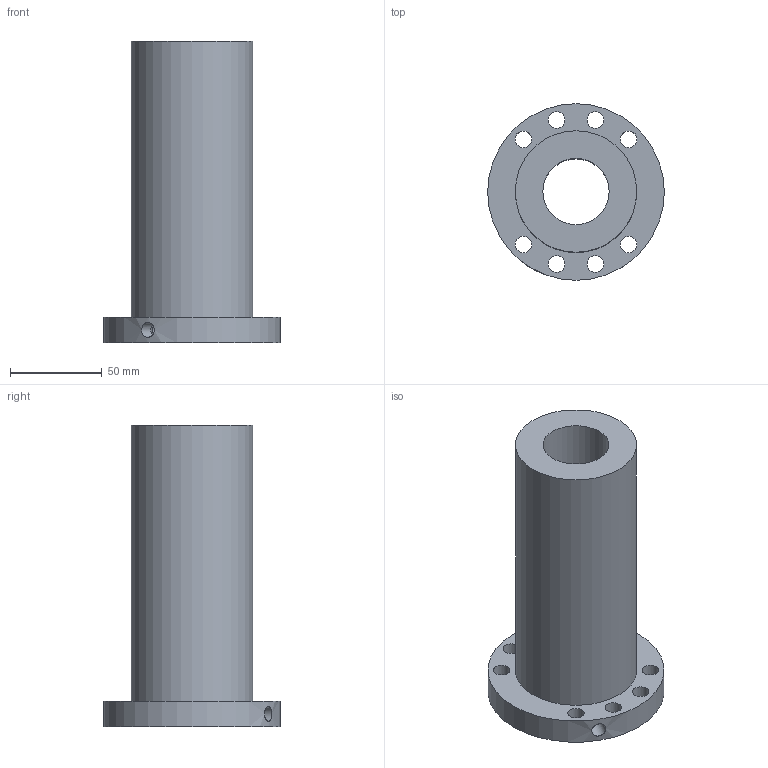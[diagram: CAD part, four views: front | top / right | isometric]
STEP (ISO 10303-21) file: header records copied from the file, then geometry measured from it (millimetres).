
FILE_DESCRIPTION(/* description */ (''),/* implementation_level */ '2;1');
FILE_NAME(/* name */ '36-10K5_635',/* time_stamp */ '2007-10-15T12:53:59+08:00',/* author */ (''),/* organization */ (''),/* preprocessor_version */ 'ST-DEVELOPER v11',/* originating_system */ 'UGS - NX 5.0',/* authorisation */ '');
FILE_SCHEMA (('CONFIG_CONTROL_DESIGN'));
Length unit declared in the file: millimetre
Products named in the file (1): 36-10K5_635
Bounding box: 96 x 96 x 164 mm (x, y, z)
Volume: 439390.2 mm3; surface area: 69033.5 mm2
Topology: 1 solids, 1 shells, 17 faces, 40 edges, 27 vertices
Faces by surface type: cylinder 13, plane 4
Full cylindrical faces by diameter (mm): 6 x1, 8 x1, 9 x8, 36 x1, 66 x1, 96 x1
Entity records: 668 total; most frequent: CARTESIAN_POINT 184, DIRECTION 84, FACE_BOUND 52, EDGE_LOOP 52, ORIENTED_EDGE 52, AXIS2_PLACEMENT_3D 42, VERTEX_POINT 26, EDGE_CURVE 26
